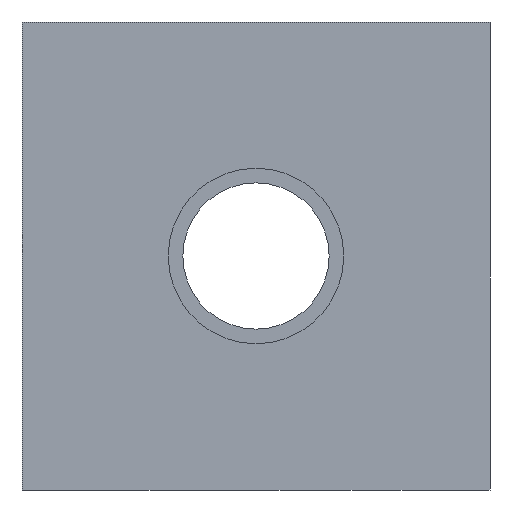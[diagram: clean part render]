
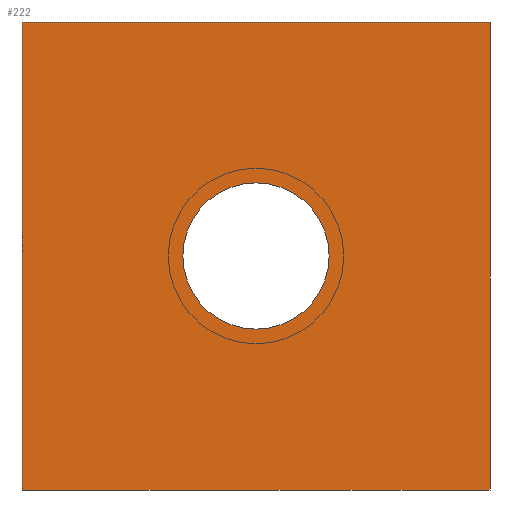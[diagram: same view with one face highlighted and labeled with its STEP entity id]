
A CAD part, front view. The second image highlights one B-rep face of the part: STEP entity #222.
In plain terms, the highlighted planar face has unit normal (0, -1, 0).
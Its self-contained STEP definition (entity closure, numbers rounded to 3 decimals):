
#1=DIRECTION('',(0.,0.,1.));
#2=VECTOR('',#1,16.);
#3=CARTESIAN_POINT('',(-8.,0.,-8.));
#4=LINE('',#3,#2);
#5=DIRECTION('',(1.,0.,0.));
#6=VECTOR('',#5,16.);
#7=CARTESIAN_POINT('',(-8.,0.,8.));
#8=LINE('',#7,#6);
#9=DIRECTION('',(0.,0.,-1.));
#10=VECTOR('',#9,16.);
#11=CARTESIAN_POINT('',(8.,0.,8.));
#12=LINE('',#11,#10);
#13=DIRECTION('',(-1.,0.,0.));
#14=VECTOR('',#13,16.);
#15=CARTESIAN_POINT('',(8.,0.,-8.));
#16=LINE('',#15,#14);
#17=CARTESIAN_POINT('',(0.,0.,0.));
#18=DIRECTION('',(0.,1.,0.));
#19=DIRECTION('',(1.,0.,0.));
#20=AXIS2_PLACEMENT_3D('',#17,#18,#19);
#22=CARTESIAN_POINT('',(0.,0.,0.));
#23=DIRECTION('',(0.,1.,0.));
#24=DIRECTION('',(-1.,0.,0.));
#25=AXIS2_PLACEMENT_3D('',#22,#23,#24);
#173=CARTESIAN_POINT('',(-8.,0.,-8.));
#174=CARTESIAN_POINT('',(-8.,0.,8.));
#175=VERTEX_POINT('',#173);
#176=VERTEX_POINT('',#174);
#177=CARTESIAN_POINT('',(8.,0.,8.));
#178=VERTEX_POINT('',#177);
#179=CARTESIAN_POINT('',(8.,0.,-8.));
#180=VERTEX_POINT('',#179);
#193=CARTESIAN_POINT('',(2.5,0.,0.));
#194=CARTESIAN_POINT('',(-2.5,0.,0.));
#195=VERTEX_POINT('',#193);
#196=VERTEX_POINT('',#194);
#201=CARTESIAN_POINT('',(0.,0.,0.));
#202=DIRECTION('',(0.,1.,0.));
#203=DIRECTION('',(1.,0.,0.));
#204=AXIS2_PLACEMENT_3D('',#201,#202,#203);
#205=PLANE('',#204);
#207=ORIENTED_EDGE('',*,*,#206,.T.);
#209=ORIENTED_EDGE('',*,*,#208,.T.);
#211=ORIENTED_EDGE('',*,*,#210,.T.);
#213=ORIENTED_EDGE('',*,*,#212,.T.);
#214=EDGE_LOOP('',(#207,#209,#211,#213));
#215=FACE_OUTER_BOUND('',#214,.F.);
#217=ORIENTED_EDGE('',*,*,#216,.F.);
#219=ORIENTED_EDGE('',*,*,#218,.F.);
#220=EDGE_LOOP('',(#217,#219));
#221=FACE_BOUND('',#220,.F.);
#222=ADVANCED_FACE('',(#215,#221),#205,.F.);
#21=CIRCLE('',#20,2.5);
#26=CIRCLE('',#25,2.5);
#206=EDGE_CURVE('',#175,#176,#4,.T.);
#208=EDGE_CURVE('',#176,#178,#8,.T.);
#210=EDGE_CURVE('',#178,#180,#12,.T.);
#212=EDGE_CURVE('',#180,#175,#16,.T.);
#216=EDGE_CURVE('',#195,#196,#21,.T.);
#218=EDGE_CURVE('',#196,#195,#26,.T.);
